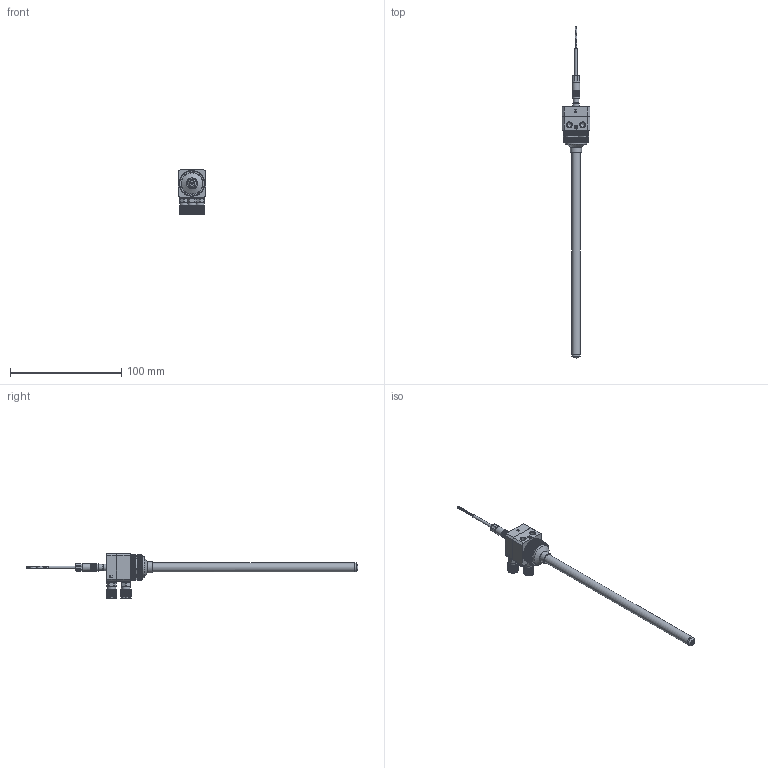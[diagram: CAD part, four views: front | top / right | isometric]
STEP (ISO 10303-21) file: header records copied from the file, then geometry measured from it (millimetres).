
FILE_DESCRIPTION (( 'STEP AP214' ), '1' );
FILE_NAME ('DAS-30-200F-8-SENSOR.STEP', '2024-10-11T09:59:38', ( '' ), ( '' ), 'SwSTEP 2.0', 'SolidWorks 2024', '' );
FILE_SCHEMA (( 'AUTOMOTIVE_DESIGN' ));
Length unit declared in the file: millimetre
Products named in the file (1): DAS-30-200F-8-SENSOR
Bounding box: 25 x 299 x 40.5 mm (x, y, z)
Volume: 31097.8 mm3; surface area: 15182.2 mm2
Topology: 2 solids, 2 shells, 1608 faces, 4331 edges, 2783 vertices
Faces by surface type: plane 963, cylinder 412, cone 219, bspline 14
Full cylindrical faces by diameter (mm): 0.5 x1, 1.5 x4, 1.6 x1, 2.5 x1, 3 x3, 4 x4, 4.198 x2, 4.2 x2, 5.4 x1, 5.5 x4, 5.7 x3, 6 x1, 6.2 x3, 7 x2, 7.2 x1, 7.998 x4, 8 x7, 8.7 x3, 10 x1, 19 x1, 19.2 x1, 19.9 x1, 21 x2, 21.2 x1
Entity records: 55615 total; most frequent: CARTESIAN_POINT 17294, ORIENTED_EDGE 8328, DIRECTION 7326, EDGE_CURVE 4164, VERTEX_POINT 2728, AXIS2_PLACEMENT_3D 2511, LINE 2304, VECTOR 2304
